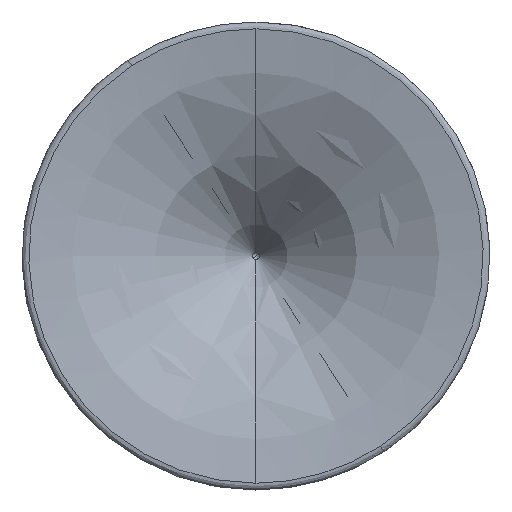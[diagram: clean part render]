
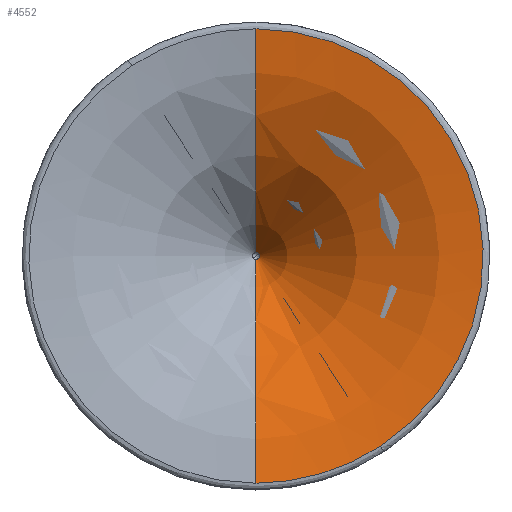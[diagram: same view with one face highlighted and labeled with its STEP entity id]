
A CAD part, front view. The second image highlights one B-rep face of the part: STEP entity #4552.
In plain terms, the highlighted toroidal (fillet/blend) face has major radius 162.908 mm and minor radius 194.442 mm.
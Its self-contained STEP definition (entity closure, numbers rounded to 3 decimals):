
#196 = ORIENTED_EDGE ( 'NONE', *, *, #1300, .F. ) ;
#268 = CARTESIAN_POINT ( 'NONE',  ( 0., 64.494, -162.908 ) ) ;
#287 = CARTESIAN_POINT ( 'NONE',  ( 0., -129.18, 0. ) ) ;
#341 = VERTEX_POINT ( 'NONE', #1926 ) ;
#391 = AXIS2_PLACEMENT_3D ( 'NONE', #3652, #1284, #1773 ) ;
#421 = DIRECTION ( 'NONE',  ( 0., 1., 0. ) ) ;
#440 = VERTEX_POINT ( 'NONE', #820 ) ;
#468 = CARTESIAN_POINT ( 'NONE',  ( 0., -129.18, 145.645 ) ) ;
#589 = AXIS2_PLACEMENT_3D ( 'NONE', #3703, #5063, #4492 ) ;
#734 = ORIENTED_EDGE ( 'NONE', *, *, #3320, .F. ) ;
#820 = CARTESIAN_POINT ( 'NONE',  ( 79.66, -129.18, -121.929 ) ) ;
#867 = CIRCLE ( 'NONE', #2046, 194.442 ) ;
#919 = EDGE_CURVE ( 'NONE', #2186, #4642, #3428, .T. ) ;
#1015 = ORIENTED_EDGE ( 'NONE', *, *, #4795, .T. ) ;
#1024 = ORIENTED_EDGE ( 'NONE', *, *, #1795, .F. ) ;
#1088 = AXIS2_PLACEMENT_3D ( 'NONE', #1854, #421, #1354 ) ;
#1284 = DIRECTION ( 'NONE',  ( 0., 1., 0. ) ) ;
#1300 = EDGE_CURVE ( 'NONE', #440, #341, #2021, .T. ) ;
#1354 = DIRECTION ( 'NONE',  ( 0., 0., 1. ) ) ;
#1388 = AXIS2_PLACEMENT_3D ( 'NONE', #287, #5561, #5974 ) ;
#1685 = DIRECTION ( 'NONE',  ( 0., 0., -1. ) ) ;
#1716 = CARTESIAN_POINT ( 'NONE',  ( 0., -45.101, 2.295 ) ) ;
#1773 = DIRECTION ( 'NONE',  ( 0., 0., 1. ) ) ;
#1795 = EDGE_CURVE ( 'NONE', #341, #4642, #867, .T. ) ;
#1854 = CARTESIAN_POINT ( 'NONE',  ( 0., -45.101, 0. ) ) ;
#1926 = CARTESIAN_POINT ( 'NONE',  ( 0., -129.18, -145.645 ) ) ;
#2021 = CIRCLE ( 'NONE', #589, 145.645 ) ;
#2046 = AXIS2_PLACEMENT_3D ( 'NONE', #268, #2238, #5540 ) ;
#2152 = DIRECTION ( 'NONE',  ( 0., -1., 0. ) ) ;
#2183 = CIRCLE ( 'NONE', #1088, 2.295 ) ;
#2186 = VERTEX_POINT ( 'NONE', #6111 ) ;
#2238 = DIRECTION ( 'NONE',  ( -1., 0., 0. ) ) ;
#2668 = ORIENTED_EDGE ( 'NONE', *, *, #919, .T. ) ;
#2755 = DIRECTION ( 'NONE',  ( 0., 0., -1. ) ) ;
#3320 = EDGE_CURVE ( 'NONE', #5485, #440, #5642, .T. ) ;
#3428 = CIRCLE ( 'NONE', #391, 2.295 ) ;
#3549 = VERTEX_POINT ( 'NONE', #1716 ) ;
#3652 = CARTESIAN_POINT ( 'NONE',  ( 0., -45.101, 0. ) ) ;
#3703 = CARTESIAN_POINT ( 'NONE',  ( 0., -129.18, 0. ) ) ;
#3755 = FACE_OUTER_BOUND ( 'NONE', #4635, .T. ) ;
#3894 = TOROIDAL_SURFACE ( 'NONE', #4583, 162.908, 194.442 ) ;
#4022 = CARTESIAN_POINT ( 'NONE',  ( 0., 64.494, 0. ) ) ;
#4207 = DIRECTION ( 'NONE',  ( 1., 0., 0. ) ) ;
#4492 = DIRECTION ( 'NONE',  ( 0., 0., 1. ) ) ;
#4552 = ADVANCED_FACE ( 'NONE', ( #3755 ), #3894, .T. ) ;
#4583 = AXIS2_PLACEMENT_3D ( 'NONE', #4022, #2152, #1685 ) ;
#4635 = EDGE_LOOP ( 'NONE', ( #734, #4743, #1015, #2668, #1024, #196 ) ) ;
#4642 = VERTEX_POINT ( 'NONE', #4756 ) ;
#4743 = ORIENTED_EDGE ( 'NONE', *, *, #5420, .T. ) ;
#4756 = CARTESIAN_POINT ( 'NONE',  ( 0., -45.101, -2.295 ) ) ;
#4795 = EDGE_CURVE ( 'NONE', #3549, #2186, #2183, .T. ) ;
#5063 = DIRECTION ( 'NONE',  ( 0., 1., 0. ) ) ;
#5136 = CARTESIAN_POINT ( 'NONE',  ( 0., 64.494, 162.908 ) ) ;
#5194 = CIRCLE ( 'NONE', #6134, 194.442 ) ;
#5420 = EDGE_CURVE ( 'NONE', #5485, #3549, #5194, .T. ) ;
#5485 = VERTEX_POINT ( 'NONE', #468 ) ;
#5540 = DIRECTION ( 'NONE',  ( 0., 0., 1. ) ) ;
#5561 = DIRECTION ( 'NONE',  ( 0., 1., 0. ) ) ;
#5642 = CIRCLE ( 'NONE', #1388, 145.645 ) ;
#5974 = DIRECTION ( 'NONE',  ( -1., 0., 0. ) ) ;
#6111 = CARTESIAN_POINT ( 'NONE',  ( 1.921, -45.101, 1.255 ) ) ;
#6134 = AXIS2_PLACEMENT_3D ( 'NONE', #5136, #4207, #2755 ) ;
